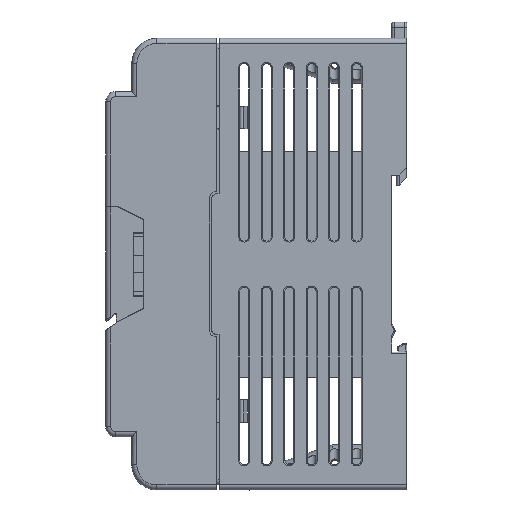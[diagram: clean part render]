
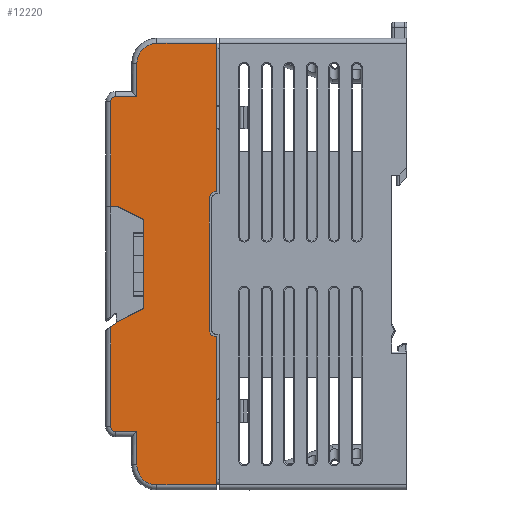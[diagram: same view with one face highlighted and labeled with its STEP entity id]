
A CAD part, left-side view. The second image highlights one B-rep face of the part: STEP entity #12220.
In plain terms, the highlighted planar face has unit normal (-1, 0, 0).
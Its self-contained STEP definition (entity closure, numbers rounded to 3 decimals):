
#78=DIRECTION('',(0.,0.,1.));
#79=VECTOR('',#78,20.9);
#80=CARTESIAN_POINT('',(-17.5,21.6,11.5));
#81=LINE('',#80,#79);
#101=CARTESIAN_POINT('',(-17.5,20.6,32.4));
#102=DIRECTION('',(1.,0.,0.));
#103=DIRECTION('',(0.,1.,0.));
#104=AXIS2_PLACEMENT_3D('',#101,#102,#103);
#278=DIRECTION('',(0.,0.,1.));
#279=VECTOR('',#278,29.5);
#280=CARTESIAN_POINT('',(-17.5,0.5,-44.));
#281=LINE('',#280,#279);
#390=DIRECTION('',(0.,0.,1.));
#391=VECTOR('',#390,29.5);
#392=CARTESIAN_POINT('',(-17.5,0.5,14.5));
#393=LINE('',#392,#391);
#465=CARTESIAN_POINT('',(-17.5,12.4,-40.));
#466=DIRECTION('',(-1.,0.,0.));
#467=DIRECTION('',(0.,1.,0.));
#468=AXIS2_PLACEMENT_3D('',#465,#466,#467);
#489=DIRECTION('',(0.,0.,-1.));
#490=VECTOR('',#489,26.);
#491=CARTESIAN_POINT('',(-17.5,2.,13.));
#492=LINE('',#491,#490);
#496=DIRECTION('',(0.,0.816,-0.578));
#497=VECTOR('',#496,1.716);
#498=CARTESIAN_POINT('',(-17.5,20.2,-11.5));
#499=LINE('',#498,#497);
#503=DIRECTION('',(0.,-0.894,0.447));
#504=VECTOR('',#503,5.814);
#505=CARTESIAN_POINT('',(-17.5,20.2,-11.5));
#506=LINE('',#505,#504);
#510=DIRECTION('',(0.,0.,1.));
#511=VECTOR('',#510,17.8);
#512=CARTESIAN_POINT('',(-17.5,15.,-8.9));
#513=LINE('',#512,#511);
#517=DIRECTION('',(0.,0.894,0.447));
#518=VECTOR('',#517,5.814);
#519=CARTESIAN_POINT('',(-17.5,15.,8.9));
#520=LINE('',#519,#518);
#524=DIRECTION('',(0.,-1.,0.));
#525=VECTOR('',#524,1.4);
#526=CARTESIAN_POINT('',(-17.5,21.6,11.5));
#527=LINE('',#526,#525);
#539=CARTESIAN_POINT('',(-17.5,0.5,-13.));
#540=DIRECTION('',(1.,0.,0.));
#541=DIRECTION('',(0.,0.,-1.));
#542=AXIS2_PLACEMENT_3D('',#539,#540,#541);
#2628=DIRECTION('',(0.,-1.,0.));
#2629=VECTOR('',#2628,11.9);
#2630=CARTESIAN_POINT('',(-17.5,12.4,44.));
#2631=LINE('',#2630,#2629);
#2666=CARTESIAN_POINT('',(-17.5,12.4,40.));
#2667=DIRECTION('',(1.,0.,0.));
#2668=DIRECTION('',(0.,1.,0.));
#2669=AXIS2_PLACEMENT_3D('',#2666,#2667,#2668);
#2689=DIRECTION('',(0.,0.,1.));
#2690=VECTOR('',#2689,6.6);
#2691=CARTESIAN_POINT('',(-17.5,16.4,33.4));
#2692=LINE('',#2691,#2690);
#2710=DIRECTION('',(0.,-1.,0.));
#2711=VECTOR('',#2710,4.2);
#2712=CARTESIAN_POINT('',(-17.5,20.6,33.4));
#2713=LINE('',#2712,#2711);
#4423=DIRECTION('',(0.,-1.,0.));
#4424=VECTOR('',#4423,11.9);
#4425=CARTESIAN_POINT('',(-17.5,12.4,-44.));
#4426=LINE('',#4425,#4424);
#4578=DIRECTION('',(0.,0.,-1.));
#4579=VECTOR('',#4578,6.6);
#4580=CARTESIAN_POINT('',(-17.5,16.4,-33.4));
#4581=LINE('',#4580,#4579);
#4613=DIRECTION('',(0.,1.,0.));
#4614=VECTOR('',#4613,4.2);
#4615=CARTESIAN_POINT('',(-17.5,16.4,-33.4));
#4616=LINE('',#4615,#4614);
#4628=CARTESIAN_POINT('',(-17.5,20.6,-32.4));
#4629=DIRECTION('',(1.,0.,0.));
#4630=DIRECTION('',(0.,0.,-1.));
#4631=AXIS2_PLACEMENT_3D('',#4628,#4629,#4630);
#9155=DIRECTION('',(0.,0.,1.));
#9156=VECTOR('',#9155,19.908);
#9157=CARTESIAN_POINT('',(-17.5,21.6,-32.4));
#9158=LINE('',#9157,#9156);
#9906=CARTESIAN_POINT('',(-17.5,0.5,13.));
#9907=DIRECTION('',(1.,0.,0.));
#9908=DIRECTION('',(0.,1.,0.));
#9909=AXIS2_PLACEMENT_3D('',#9906,#9907,#9908);
#10006=CARTESIAN_POINT('',(-17.5,15.,-8.9));
#10007=CARTESIAN_POINT('',(-17.5,15.,8.9));
#10008=VERTEX_POINT('',#10006);
#10009=VERTEX_POINT('',#10007);
#10082=CARTESIAN_POINT('',(-17.5,20.2,11.5));
#10083=VERTEX_POINT('',#10082);
#10088=CARTESIAN_POINT('',(-17.5,16.4,33.4));
#10089=CARTESIAN_POINT('',(-17.5,16.4,40.));
#10090=VERTEX_POINT('',#10088);
#10091=VERTEX_POINT('',#10089);
#10094=CARTESIAN_POINT('',(-17.5,12.4,44.));
#10095=VERTEX_POINT('',#10094);
#10108=CARTESIAN_POINT('',(-17.5,16.4,-33.4));
#10109=CARTESIAN_POINT('',(-17.5,16.4,-40.));
#10110=VERTEX_POINT('',#10108);
#10111=VERTEX_POINT('',#10109);
#10116=CARTESIAN_POINT('',(-17.5,12.4,-44.));
#10117=VERTEX_POINT('',#10116);
#10136=CARTESIAN_POINT('',(-17.5,21.6,11.5));
#10137=CARTESIAN_POINT('',(-17.5,21.6,32.4));
#10138=VERTEX_POINT('',#10136);
#10139=VERTEX_POINT('',#10137);
#10142=CARTESIAN_POINT('',(-17.5,20.6,33.4));
#10143=VERTEX_POINT('',#10142);
#10156=CARTESIAN_POINT('',(-17.5,21.6,-32.4));
#10157=CARTESIAN_POINT('',(-17.5,21.6,-12.492));
#10158=VERTEX_POINT('',#10156);
#10159=VERTEX_POINT('',#10157);
#10166=CARTESIAN_POINT('',(-17.5,20.6,-33.4));
#10167=VERTEX_POINT('',#10166);
#10828=CARTESIAN_POINT('',(-17.5,0.5,44.));
#10829=VERTEX_POINT('',#10828);
#10838=CARTESIAN_POINT('',(-17.5,0.5,-44.));
#10839=VERTEX_POINT('',#10838);
#10892=CARTESIAN_POINT('',(-17.5,2.,13.));
#10894=VERTEX_POINT('',#10892);
#10909=CARTESIAN_POINT('',(-17.5,2.,-13.));
#10911=VERTEX_POINT('',#10909);
#10932=CARTESIAN_POINT('',(-17.5,0.5,14.5));
#10933=VERTEX_POINT('',#10932);
#10942=CARTESIAN_POINT('',(-17.5,0.5,-14.5));
#10943=VERTEX_POINT('',#10942);
#11508=CARTESIAN_POINT('',(-17.5,20.2,-11.5));
#11509=VERTEX_POINT('',#11508);
#12175=CARTESIAN_POINT('',(-17.5,0.,-45.));
#12176=DIRECTION('',(-1.,0.,0.));
#12177=DIRECTION('',(0.,0.,1.));
#12178=AXIS2_PLACEMENT_3D('',#12175,#12176,#12177);
#12179=PLANE('',#12178);
#12180=ORIENTED_EDGE('',*,*,#12013,.T.);
#12182=ORIENTED_EDGE('',*,*,#12181,.F.);
#12183=ORIENTED_EDGE('',*,*,#12045,.F.);
#12185=ORIENTED_EDGE('',*,*,#12184,.F.);
#12186=ORIENTED_EDGE('',*,*,#12165,.F.);
#12188=ORIENTED_EDGE('',*,*,#12187,.F.);
#12190=ORIENTED_EDGE('',*,*,#12189,.T.);
#12192=ORIENTED_EDGE('',*,*,#12191,.T.);
#12194=ORIENTED_EDGE('',*,*,#12193,.T.);
#12196=ORIENTED_EDGE('',*,*,#12195,.F.);
#12198=ORIENTED_EDGE('',*,*,#12197,.T.);
#12200=ORIENTED_EDGE('',*,*,#12199,.T.);
#12202=ORIENTED_EDGE('',*,*,#12201,.T.);
#12204=ORIENTED_EDGE('',*,*,#12203,.F.);
#12205=ORIENTED_EDGE('',*,*,#11872,.T.);
#12206=ORIENTED_EDGE('',*,*,#11888,.T.);
#12208=ORIENTED_EDGE('',*,*,#12207,.T.);
#12210=ORIENTED_EDGE('',*,*,#12209,.T.);
#12212=ORIENTED_EDGE('',*,*,#12211,.T.);
#12214=ORIENTED_EDGE('',*,*,#12213,.T.);
#12215=ORIENTED_EDGE('',*,*,#12105,.F.);
#12217=ORIENTED_EDGE('',*,*,#12216,.F.);
#12218=EDGE_LOOP('',(#12180,#12182,#12183,#12185,#12186,#12188,#12190,#12192,
#12194,#12196,#12198,#12200,#12202,#12204,#12205,#12206,#12208,#12210,#12212,
#12214,#12215,#12217));
#12219=FACE_OUTER_BOUND('',#12218,.F.);
#12220=ADVANCED_FACE('',(#12219),#12179,.T.);
#105=CIRCLE('',#104,1.);
#469=CIRCLE('',#468,4.);
#543=CIRCLE('',#542,1.5);
#2670=CIRCLE('',#2669,4.);
#4632=CIRCLE('',#4631,1.);
#9910=CIRCLE('',#9909,1.5);
#11872=EDGE_CURVE('',#10138,#10139,#81,.T.);
#11888=EDGE_CURVE('',#10139,#10143,#105,.T.);
#12013=EDGE_CURVE('',#10894,#10911,#492,.T.);
#12045=EDGE_CURVE('',#10839,#10943,#281,.T.);
#12105=EDGE_CURVE('',#10933,#10829,#393,.T.);
#12165=EDGE_CURVE('',#10111,#10117,#469,.T.);
#12181=EDGE_CURVE('',#10943,#10911,#543,.T.);
#12184=EDGE_CURVE('',#10117,#10839,#4426,.T.);
#12187=EDGE_CURVE('',#10110,#10111,#4581,.T.);
#12189=EDGE_CURVE('',#10110,#10167,#4616,.T.);
#12191=EDGE_CURVE('',#10167,#10158,#4632,.T.);
#12193=EDGE_CURVE('',#10158,#10159,#9158,.T.);
#12195=EDGE_CURVE('',#11509,#10159,#499,.T.);
#12197=EDGE_CURVE('',#11509,#10008,#506,.T.);
#12199=EDGE_CURVE('',#10008,#10009,#513,.T.);
#12201=EDGE_CURVE('',#10009,#10083,#520,.T.);
#12203=EDGE_CURVE('',#10138,#10083,#527,.T.);
#12207=EDGE_CURVE('',#10143,#10090,#2713,.T.);
#12209=EDGE_CURVE('',#10090,#10091,#2692,.T.);
#12211=EDGE_CURVE('',#10091,#10095,#2670,.T.);
#12213=EDGE_CURVE('',#10095,#10829,#2631,.T.);
#12216=EDGE_CURVE('',#10894,#10933,#9910,.T.);
